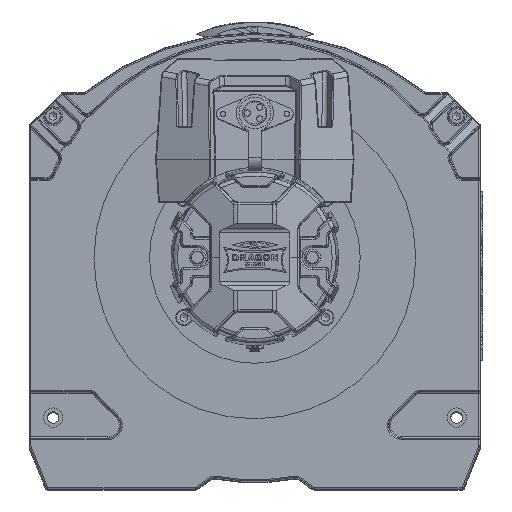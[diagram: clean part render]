
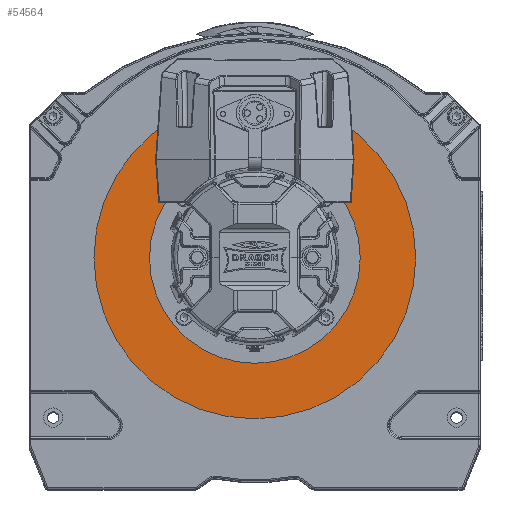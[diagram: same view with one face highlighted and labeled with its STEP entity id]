
A CAD part, top view. The second image highlights one B-rep face of the part: STEP entity #54564.
In plain terms, the highlighted planar face has unit normal (0, 0, 1).
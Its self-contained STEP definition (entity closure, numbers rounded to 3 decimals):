
#4293=PLANE('',#59846);
#6965=FACE_OUTER_BOUND('',#10362,.T.);
#10362=EDGE_LOOP('',(#47730));
#20504=CIRCLE('',#59847,126.);
#25452=VERTEX_POINT('',#118001);
#33004=EDGE_CURVE('',#25452,#25452,#20504,.T.);
#47730=ORIENTED_EDGE('',*,*,#33004,.T.);
#54564=ADVANCED_FACE('',(#6965),#4293,.T.);
#59846=AXIS2_PLACEMENT_3D('',#118000,#73205,#73206);
#59847=AXIS2_PLACEMENT_3D('',#118002,#73207,#73208);
#73205=DIRECTION('center_axis',(0.,0.,1.));
#73206=DIRECTION('ref_axis',(1.,0.,0.));
#73207=DIRECTION('center_axis',(0.,0.,1.));
#73208=DIRECTION('ref_axis',(1.,0.,0.));
#118000=CARTESIAN_POINT('Origin',(0.,-37.99,
376.));
#118001=CARTESIAN_POINT('',(-126.,0.,376.));
#118002=CARTESIAN_POINT('Origin',(0.,0.,
376.));
